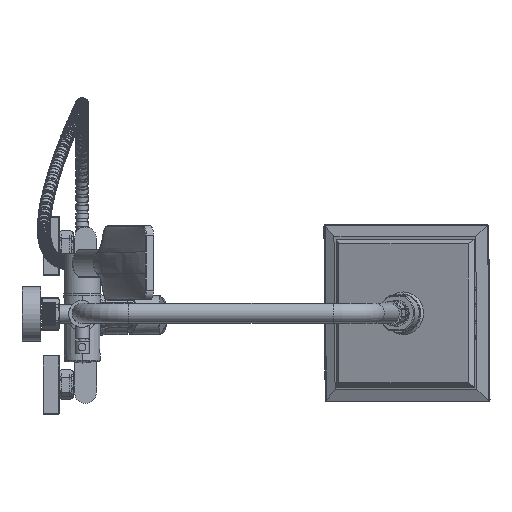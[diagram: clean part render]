
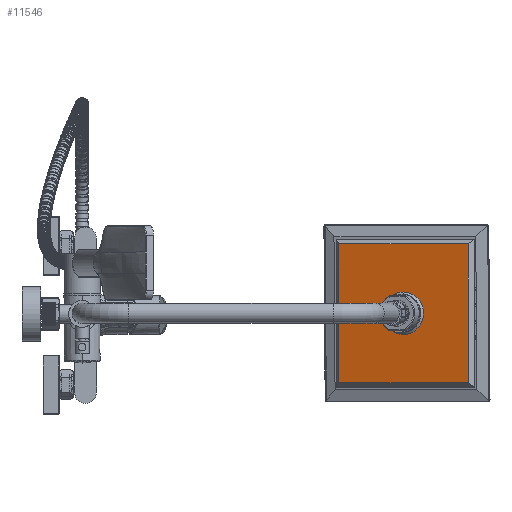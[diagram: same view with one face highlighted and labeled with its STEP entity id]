
A CAD part, top view. The second image highlights one B-rep face of the part: STEP entity #11546.
In plain terms, the highlighted planar face has unit normal (-0.359, 0, 0.933).
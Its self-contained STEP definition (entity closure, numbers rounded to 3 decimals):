
#4950=FACE_BOUND('',#19609,.T.);
#4951=FACE_BOUND('',#19610,.T.);
#8165=CIRCLE('',#55912,23.);
#8166=CIRCLE('',#55913,23.);
#11546=ADVANCED_FACE('',(#4950,#4951),#13601,.T.);
#13601=PLANE('',#55914);
#19609=EDGE_LOOP('',(#28175,#28176));
#19610=EDGE_LOOP('',(#28177,#28178,#28179,#28180));
#28175=ORIENTED_EDGE('',*,*,#42863,.T.);
#28176=ORIENTED_EDGE('',*,*,#42864,.T.);
#28177=ORIENTED_EDGE('',*,*,#42865,.T.);
#28178=ORIENTED_EDGE('',*,*,#42866,.T.);
#28179=ORIENTED_EDGE('',*,*,#42867,.T.);
#28180=ORIENTED_EDGE('',*,*,#42868,.T.);
#37215=VERTEX_POINT('',#103680);
#37216=VERTEX_POINT('',#103681);
#37217=VERTEX_POINT('',#103684);
#37218=VERTEX_POINT('',#103685);
#37219=VERTEX_POINT('',#103687);
#37220=VERTEX_POINT('',#103689);
#42863=EDGE_CURVE('',#37215,#37216,#8165,.T.);
#42864=EDGE_CURVE('',#37216,#37215,#8166,.T.);
#42865=EDGE_CURVE('',#37217,#37218,#47130,.T.);
#42866=EDGE_CURVE('',#37218,#37219,#47131,.T.);
#42867=EDGE_CURVE('',#37219,#37220,#47132,.T.);
#42868=EDGE_CURVE('',#37220,#37217,#47133,.T.);
#47130=LINE('',#103683,#50099);
#47131=LINE('',#103686,#50100);
#47132=LINE('',#103688,#50101);
#47133=LINE('',#103690,#50102);
#50099=VECTOR('',#66969,1.);
#50100=VECTOR('',#66970,1.);
#50101=VECTOR('',#66971,1.);
#50102=VECTOR('',#66972,1.);
#55912=AXIS2_PLACEMENT_3D('',#103679,#66965,#66966);
#55913=AXIS2_PLACEMENT_3D('',#103682,#66967,#66968);
#55914=AXIS2_PLACEMENT_3D('',#103691,#66973,#66974);
#66965=DIRECTION('',(0.359,0.,-0.933));
#66966=DIRECTION('',(0.007,-1.,0.003));
#66967=DIRECTION('',(0.359,0.,-0.933));
#66968=DIRECTION('',(-0.007,1.,-0.003));
#66969=DIRECTION('',(-0.933,0.,-0.359));
#66970=DIRECTION('',(0.,-1.,0.));
#66971=DIRECTION('',(0.933,0.,0.359));
#66972=DIRECTION('',(0.,1.,0.));
#66973=DIRECTION('',(-0.359,0.,0.933));
#66974=DIRECTION('',(-0.007,1.,-0.003));
#103679=CARTESIAN_POINT('',(343.416,-0.015,1203.581));
#103680=CARTESIAN_POINT('',(343.253,22.984,1203.518));
#103681=CARTESIAN_POINT('',(343.253,-23.015,1203.518));
#103682=CARTESIAN_POINT('',(343.416,-0.015,1203.581));
#103683=CARTESIAN_POINT('',(268.756,75.,1174.844));
#103684=CARTESIAN_POINT('',(413.411,75.,1230.521));
#103685=CARTESIAN_POINT('',(273.422,75.,1176.64));
#103686=CARTESIAN_POINT('',(273.422,-75.03,1176.64));
#103687=CARTESIAN_POINT('',(273.422,-75.03,1176.64));
#103688=CARTESIAN_POINT('',(413.411,-75.03,1230.521));
#103689=CARTESIAN_POINT('',(413.411,-75.03,1230.521));
#103690=CARTESIAN_POINT('',(413.411,80.,1230.521));
#103691=CARTESIAN_POINT('',(272.531,124.909,1176.297));
